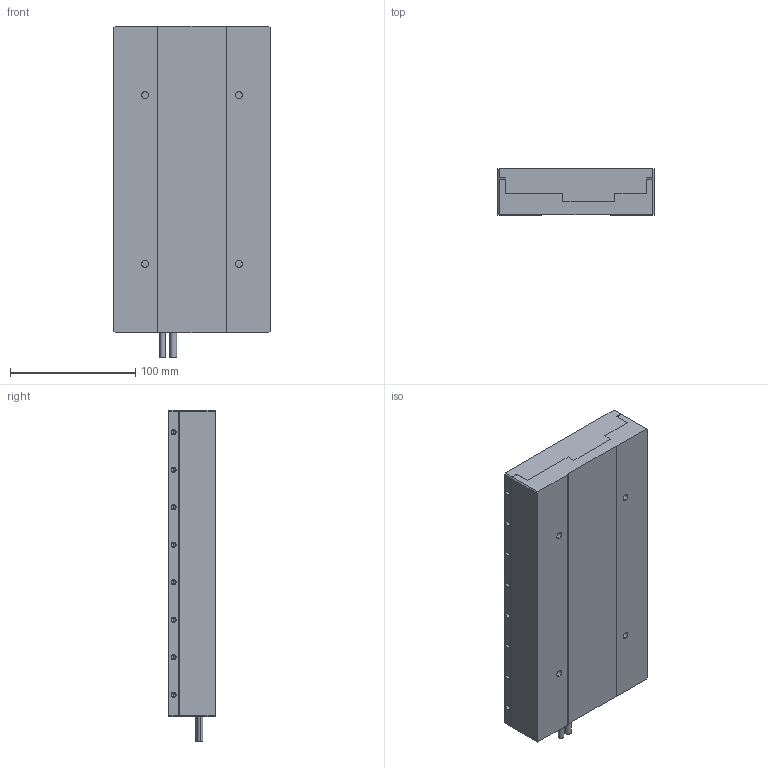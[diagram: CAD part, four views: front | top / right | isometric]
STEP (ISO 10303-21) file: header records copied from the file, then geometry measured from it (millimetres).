
FILE_DESCRIPTION (( 'STEP AP203' ), '1' );
FILE_NAME ('NPS-L-UB2-10x.STEP', '2019-09-11T05:14:39', ( '' ), ( '' ), 'SwSTEP 2.0', 'SolidWorks 2015', '' );
FILE_SCHEMA (( 'CONFIG_CONTROL_DESIGN' ));
Length unit declared in the file: millimetre
Products named in the file (3): NPS-L-UB2-10x_固定部; NPS-L-UB2-10x_移動部; NPS-L-UB2-10x
Assembly tree (2 placements, depth 2):
  NPS-L-UB2-10x
    NPS-L-UB2-10x_固定部
    NPS-L-UB2-10x_移動部
Bounding box: 125 x 37 x 265 mm (x, y, z)
Volume: 1116519.1 mm3; surface area: 173284.2 mm2
Topology: 2 solids, 2 shells, 226 faces, 528 edges, 322 vertices
Faces by surface type: cylinder 112, plane 78, cone 36
Entity records: 6575 total; most frequent: DIRECTION 1180, CARTESIAN_POINT 1063, ORIENTED_EDGE 984, EDGE_CURVE 492, AXIS2_PLACEMENT_3D 459, VERTEX_POINT 322, EDGE_LOOP 286, LINE 262
